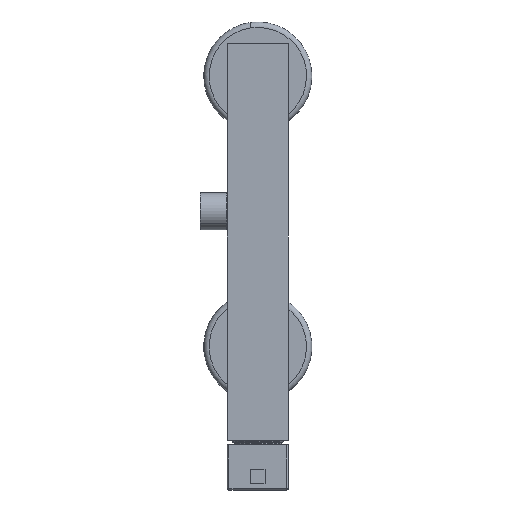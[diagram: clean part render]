
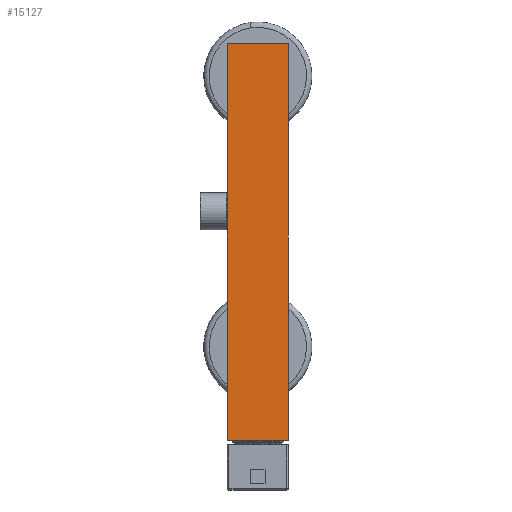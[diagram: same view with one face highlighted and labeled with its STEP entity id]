
A CAD part, left-side view. The second image highlights one B-rep face of the part: STEP entity #15127.
In plain terms, the highlighted planar face has unit normal (-1, 0, 0).
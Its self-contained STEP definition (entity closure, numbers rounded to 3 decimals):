
#542 = EDGE_CURVE ( 'NONE', #18552, #2124, #6719, .T. ) ;
#571 = FACE_OUTER_BOUND ( 'NONE', #5871, .T. ) ;
#2124 = VERTEX_POINT ( 'NONE', #10731 ) ;
#2545 = ORIENTED_EDGE ( 'NONE', *, *, #7978, .T. ) ;
#2665 = VECTOR ( 'NONE', #8295, 1000. ) ;
#4231 = CARTESIAN_POINT ( 'NONE',  ( -17., -17., 220. ) ) ;
#4267 = CARTESIAN_POINT ( 'NONE',  ( -17., 17., 220. ) ) ;
#5589 = VECTOR ( 'NONE', #6153, 1000. ) ;
#5871 = EDGE_LOOP ( 'NONE', ( #2545, #12112, #18201, #18392 ) ) ;
#6153 = DIRECTION ( 'NONE',  ( 0., -1., 0. ) ) ;
#6719 = LINE ( 'NONE', #9393, #5589 ) ;
#6770 = VERTEX_POINT ( 'NONE', #10394 ) ;
#6789 = LINE ( 'NONE', #13301, #18067 ) ;
#6995 = PLANE ( 'NONE',  #17875 ) ;
#7978 = EDGE_CURVE ( 'NONE', #10655, #6770, #6789, .T. ) ;
#8295 = DIRECTION ( 'NONE',  ( 0., 0., -1. ) ) ;
#9272 = DIRECTION ( 'NONE',  ( 0., 0., -1. ) ) ;
#9393 = CARTESIAN_POINT ( 'NONE',  ( -17., -17., 220. ) ) ;
#10357 = DIRECTION ( 'NONE',  ( 0., -1., 0. ) ) ;
#10394 = CARTESIAN_POINT ( 'NONE',  ( -17., -17., 0. ) ) ;
#10655 = VERTEX_POINT ( 'NONE', #11623 ) ;
#10731 = CARTESIAN_POINT ( 'NONE',  ( -17., -17., 220. ) ) ;
#11390 = CARTESIAN_POINT ( 'NONE',  ( -17., -17., 220. ) ) ;
#11623 = CARTESIAN_POINT ( 'NONE',  ( -17., 17., 0. ) ) ;
#12112 = ORIENTED_EDGE ( 'NONE', *, *, #15539, .F. ) ;
#13301 = CARTESIAN_POINT ( 'NONE',  ( -17., -17., 0. ) ) ;
#13736 = VECTOR ( 'NONE', #9272, 1000. ) ;
#14182 = LINE ( 'NONE', #4231, #13736 ) ;
#15127 = ADVANCED_FACE ( 'NONE', ( #571 ), #6995, .F. ) ;
#15539 = EDGE_CURVE ( 'NONE', #2124, #6770, #14182, .T. ) ;
#17159 = DIRECTION ( 'NONE',  ( 1., 0., 0. ) ) ;
#17283 = DIRECTION ( 'NONE',  ( 0., 0., -1. ) ) ;
#17698 = EDGE_CURVE ( 'NONE', #18552, #10655, #18797, .T. ) ;
#17875 = AXIS2_PLACEMENT_3D ( 'NONE', #11390, #17159, #17283 ) ;
#18067 = VECTOR ( 'NONE', #10357, 1000. ) ;
#18201 = ORIENTED_EDGE ( 'NONE', *, *, #542, .F. ) ;
#18392 = ORIENTED_EDGE ( 'NONE', *, *, #17698, .T. ) ;
#18506 = CARTESIAN_POINT ( 'NONE',  ( -17., 17., 220. ) ) ;
#18552 = VERTEX_POINT ( 'NONE', #4267 ) ;
#18797 = LINE ( 'NONE', #18506, #2665 ) ;
